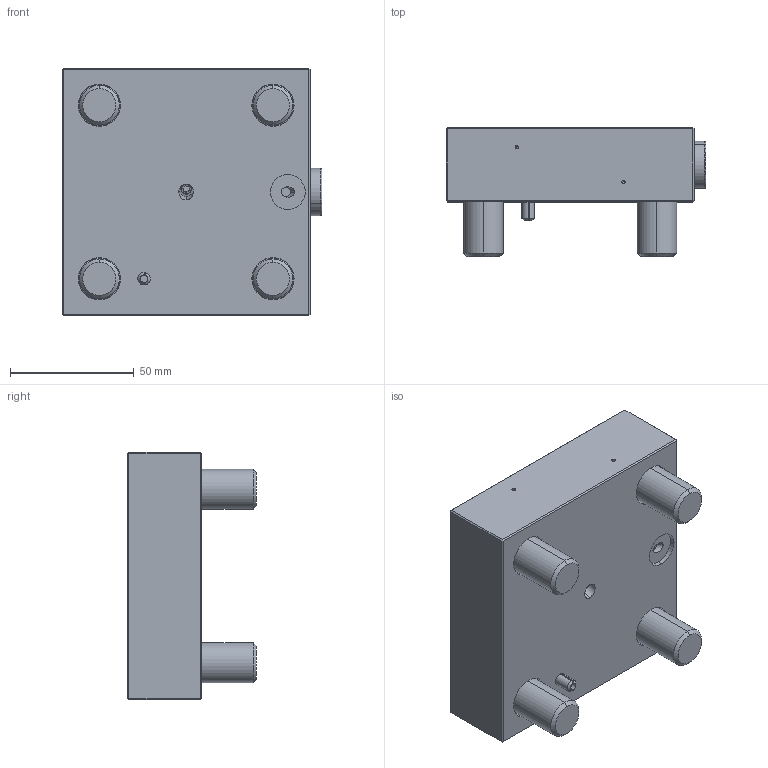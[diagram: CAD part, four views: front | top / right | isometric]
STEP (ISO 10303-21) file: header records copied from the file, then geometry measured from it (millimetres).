
FILE_DESCRIPTION (( 'STEP AP214' ), '1' );
FILE_NAME ('D32...2_2.STEP', '2017-03-17T13:08:30', ( '' ), ( '' ), 'SwSTEP 2.0', 'SolidWorks 2016', '' );
FILE_SCHEMA (( 'AUTOMOTIVE_DESIGN' ));
Length unit declared in the file: millimetre
Products named in the file (1): D32...2_2
Bounding box: 104.7 x 52 x 100 mm (x, y, z)
Volume: 301694.2 mm3; surface area: 57048.3 mm2
Topology: 5 solids, 6 shells, 249 faces, 547 edges, 322 vertices
Faces by surface type: plane 121, cylinder 75, cone 35, torus 18
Entity records: 9397 total; most frequent: DIRECTION 1236, CARTESIAN_POINT 1129, ORIENTED_EDGE 1054, EDGE_CURVE 527, AXIS2_PLACEMENT_3D 469, VERTEX_POINT 322, VECTOR 298, LINE 298
